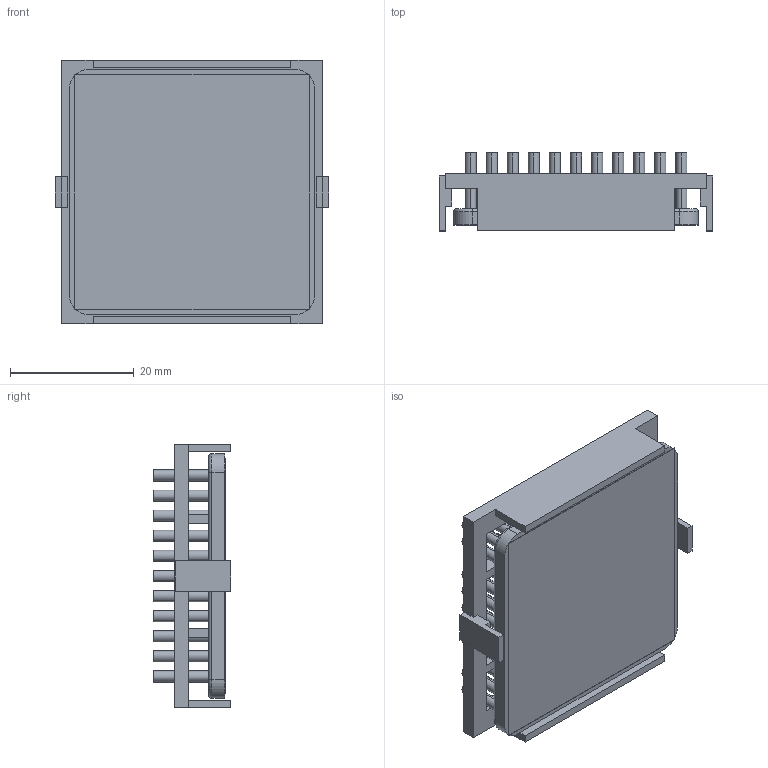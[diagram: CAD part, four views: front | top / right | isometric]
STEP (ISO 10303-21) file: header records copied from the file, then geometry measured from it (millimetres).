
FILE_DESCRIPTION (( 'STEP AP214' ), '1' );
FILE_NAME ('INM40002-12PCU-2.6O.STEP', '2023-02-27T17:29:06', ( '' ), ( '' ), 'SwSTEP 2.0', 'SolidWorks 2020', '' );
FILE_SCHEMA (( 'AUTOMOTIVE_DESIGN' ));
Length unit declared in the file: inch
Products named in the file (1): INM40002-12PCU-2.6O
Bounding box: 44.2 x 12.6 x 42.7 mm (x, y, z)
Volume: 8828.6 mm3; surface area: 15311.4 mm2
Topology: 3 solids, 3 shells, 421 faces, 898 edges, 596 vertices
Faces by surface type: cylinder 234, plane 183, torus 4
Entity records: 17099 total; most frequent: DIRECTION 2214, CARTESIAN_POINT 1916, ORIENTED_EDGE 1796, EDGE_CURVE 898, AXIS2_PLACEMENT_3D 894, VERTEX_POINT 596, EDGE_LOOP 536, CIRCLE 472
